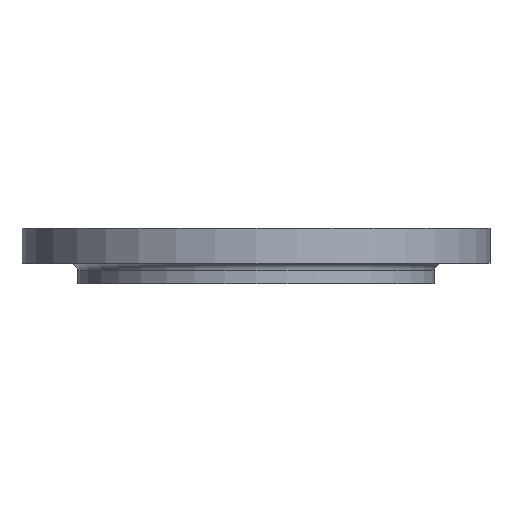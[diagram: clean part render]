
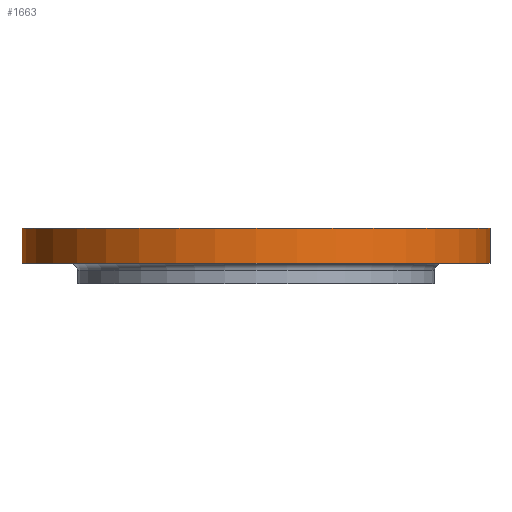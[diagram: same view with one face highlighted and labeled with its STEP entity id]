
A CAD part, front view. The second image highlights one B-rep face of the part: STEP entity #1663.
In plain terms, the highlighted cylindrical face has radius 377.5 mm (diameter 755 mm), a partial arc.
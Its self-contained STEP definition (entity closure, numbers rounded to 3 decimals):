
#4 = DIRECTION ( 'NONE',  ( 0., 0., 1. ) ) ;
#62 = EDGE_CURVE ( 'NONE', #1114, #153, #369, .T. ) ;
#127 = AXIS2_PLACEMENT_3D ( 'NONE', #192, #786, #1316 ) ;
#143 = DIRECTION ( 'NONE',  ( 1., 0., 0. ) ) ;
#153 = VERTEX_POINT ( 'NONE', #1621 ) ;
#164 = FACE_OUTER_BOUND ( 'NONE', #867, .T. ) ;
#192 = CARTESIAN_POINT ( 'NONE',  ( 0., 0., -57. ) ) ;
#216 = CARTESIAN_POINT ( 'NONE',  ( 377.5, 0., -150. ) ) ;
#324 = EDGE_CURVE ( 'NONE', #728, #1711, #1120, .T. ) ;
#369 = CIRCLE ( 'NONE', #127, 377.5 ) ;
#376 = VECTOR ( 'NONE', #1676, 1000. ) ;
#408 = AXIS2_PLACEMENT_3D ( 'NONE', #1290, #4, #604 ) ;
#426 = AXIS2_PLACEMENT_3D ( 'NONE', #882, #1399, #143 ) ;
#572 = CARTESIAN_POINT ( 'NONE',  ( -377.5, 0., -57. ) ) ;
#583 = LINE ( 'NONE', #1140, #376 ) ;
#604 = DIRECTION ( 'NONE',  ( 1., 0., 0. ) ) ;
#646 = VECTOR ( 'NONE', #803, 1000. ) ;
#728 = VERTEX_POINT ( 'NONE', #1796 ) ;
#752 = CYLINDRICAL_SURFACE ( 'NONE', #408, 377.5 ) ;
#777 = EDGE_CURVE ( 'NONE', #1114, #728, #583, .T. ) ;
#786 = DIRECTION ( 'NONE',  ( 0., 0., 1. ) ) ;
#797 = ORIENTED_EDGE ( 'NONE', *, *, #1371, .T. ) ;
#803 = DIRECTION ( 'NONE',  ( 0., 0., 1. ) ) ;
#805 = ORIENTED_EDGE ( 'NONE', *, *, #324, .F. ) ;
#867 = EDGE_LOOP ( 'NONE', ( #936, #875, #797, #805 ) ) ;
#875 = ORIENTED_EDGE ( 'NONE', *, *, #62, .T. ) ;
#882 = CARTESIAN_POINT ( 'NONE',  ( 0., 0., 0. ) ) ;
#913 = CARTESIAN_POINT ( 'NONE',  ( 377.5, 0., 0. ) ) ;
#936 = ORIENTED_EDGE ( 'NONE', *, *, #777, .F. ) ;
#1114 = VERTEX_POINT ( 'NONE', #572 ) ;
#1120 = CIRCLE ( 'NONE', #426, 377.5 ) ;
#1140 = CARTESIAN_POINT ( 'NONE',  ( -377.5, 0., -150. ) ) ;
#1290 = CARTESIAN_POINT ( 'NONE',  ( 0., 0., -150. ) ) ;
#1316 = DIRECTION ( 'NONE',  ( 1., 0., 0. ) ) ;
#1371 = EDGE_CURVE ( 'NONE', #153, #1711, #1463, .T. ) ;
#1399 = DIRECTION ( 'NONE',  ( 0., 0., 1. ) ) ;
#1463 = LINE ( 'NONE', #216, #646 ) ;
#1621 = CARTESIAN_POINT ( 'NONE',  ( 377.5, 0., -57. ) ) ;
#1663 = ADVANCED_FACE ( 'NONE', ( #164 ), #752, .T. ) ;
#1676 = DIRECTION ( 'NONE',  ( 0., 0., 1. ) ) ;
#1711 = VERTEX_POINT ( 'NONE', #913 ) ;
#1796 = CARTESIAN_POINT ( 'NONE',  ( -377.5, 0., 0. ) ) ;
